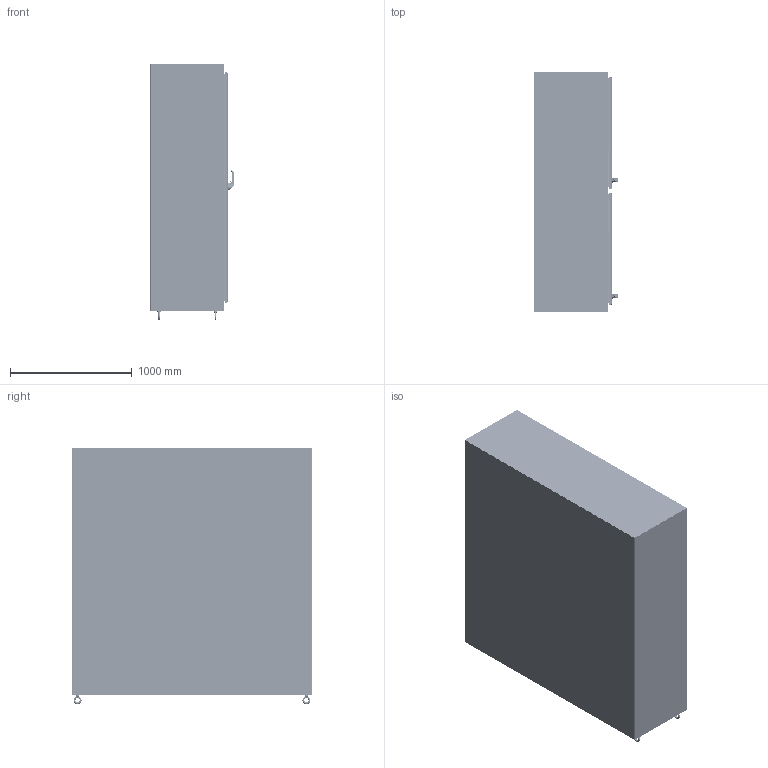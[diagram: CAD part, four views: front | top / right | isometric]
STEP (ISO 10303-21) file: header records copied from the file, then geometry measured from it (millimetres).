
FILE_DESCRIPTION((''),'2;1');
FILE_NAME('MODEL-462_ASM','2026-04-29T10:07:46',('andrew.knowlton'),('SAGINAW CONTROL & ENGINEERING'),'CREO PARAMETRIC BY PTC INC, 2021284','CREO PARAMETRIC BY PTC INC, 2021284','');
FILE_SCHEMA(('AUTOMOTIVE_DESIGN { 1 0 10303 214 1 1 1 1 }'));
Length unit declared in the file: inch
Products named in the file (123): MODEL-462-L-SD; MODEL-462-TP; MODEL-462-R-SD; MODEL-462-BTM; MODEL-462-RH-DR; 100837; 111267; 100882; 100953_SCREW_MTG; 100953_PADLOCK_CATCH; 100953_SCREW_LARGE; 100953_INSERT_SHAFT; 100953_INSERT_PCH; 100953_GASKET; 100953_O-RING; 100953_BASE; 100953_SPRING; 100953_HANDLE; 100953_CAM_SHAFT; 100953_HANDLE_ASM; 100953_CAM_ADAPTER; 100953_EARTH_NUT; 100953_FLANGE_NUT; 100953_CAM_NUT; 100953_CP_INSERT; 100953_SPRING_CAM; 100953_TORSION_SPRING; 100953_SCREW_INSERT; 100953_ASM; 102237; 100030; 102237_ASM; MODEL-462-ROD-RH-UPR; 128146; 128145; 128144; 102482; MODEL-462-ROD-RH-UPR_ASM; 128143; 112504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
Assembly tree (264 placements, depth 5):
  MODEL-462_ASM
    MODEL-462-L-SD
    MODEL-462-TP
    MODEL-462-R-SD
    MODEL-462-BTM
    MODEL-462-RH-DOOR-ASSY_ASM
      MODEL-462-RH-DR
      100837  x7
      111267
      100882  x12
      100953_ASM
        100953_SCREW_MTG
        100953_PADLOCK_CATCH
        100953_SCREW_LARGE  x2
        100953_INSERT_SHAFT
        100953_INSERT_PCH
        100953_GASKET
        100953_O-RING
        100953_BASE
        100953_SPRING
        100953_HANDLE_ASM
          100953_HANDLE
          100953_CAM_SHAFT
        100953_CAM_ADAPTER
        100953_EARTH_NUT
        100953_FLANGE_NUT
        100953_CAM_NUT
        100953_CP_INSERT
        100953_SPRING_CAM
        100953_TORSION_SPRING
        100953_SCREW_INSERT
      102237_ASM
        102237
        100030  x2
      MODEL-462-ROD-RH-UPR_ASM
        MODEL-462-ROD-RH-UPR
        128146
        128145
        128144
        102482  x2
      128143  x2
      112504  x2
      MODEL-462-ROD-RH-LWR_ASM
        MODEL-462-ROD-RH-LWR
        128146
        128145
        128144
        102482  x2
      MODEL-462-PR-GSKT-RH
      128258_ASM  x4
        128258
      126395  x4
      102483  x4
      101383_ASM  x4
        101383
        101383-STUD
      101221  x4
      125597
    MODEL-462-LH-DOOR-ASSY_ASM
      MODEL-462-LH-DR
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Bounding box: 687.67 x 1974.85 x 2106.8 mm (x, y, z)
Volume: 49113616.5 mm3; surface area: 35274349.3 mm2
Topology: 294 solids, 294 shells, 27816 faces, 70440 edges, 43254 vertices
Faces by surface type: plane 9419, cylinder 7486, bspline 6049, torus 2254, cone 1391, sphere 836, extrusion 381
Entity records: 827548 total; most frequent: CARTESIAN_POINT 373859, ORIENTED_EDGE 70048, DIRECTION 63933, PRESENTATION_STYLE_ASSIGNMENT 35906, STYLED_ITEM 35870, CURVE_STYLE 35024, EDGE_CURVE 35024, AXIS2_PLACEMENT_3D 23707
